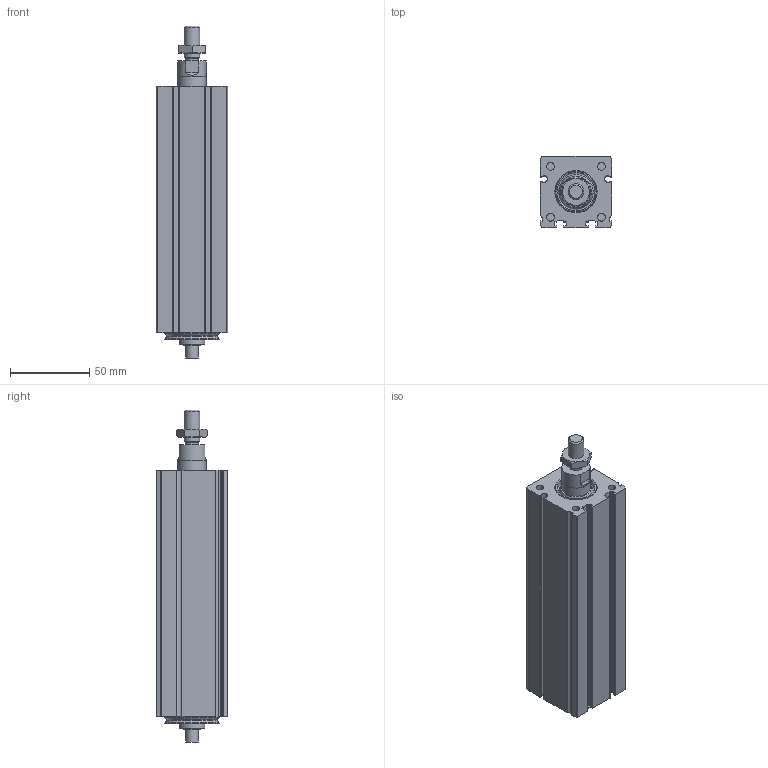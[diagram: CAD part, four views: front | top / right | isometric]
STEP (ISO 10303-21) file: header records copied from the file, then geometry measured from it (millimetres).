
FILE_DESCRIPTION(/* description */ ('STEP AP214'),/* implementation_level */ '2;1');
FILE_NAME(/* name */ 'MCE 45 1003 75 0(0)',/* time_stamp */ '2023-10-05T14:23:58+02:00',/* author */ ('License CC BY-ND 4.0'),/* organization */ ('CADENAS'),/* preprocessor_version */ 'ST-DEVELOPER v19.3',/* originating_system */ 'PARTsolutions',/* authorisation */ ' ');
FILE_SCHEMA (('AUTOMOTIVE_DESIGN {1 0 10303 214 3 1 1}'));
Length unit declared in the file: millimetre
Products named in the file (4): MCE 45 1003 75  0(0); 45_nut; 45(750)_rod; 45(75)_msc
Assembly tree (3 placements, depth 2):
  MCE 45 1003 75  0(0)
    45_nut
    45(750)_rod
    45(75)_msc
Bounding box: 45 x 45 x 209 mm (x, y, z)
Volume: 264737.9 mm3; surface area: 71048.7 mm2
Topology: 3 solids, 3 shells, 212 faces, 525 edges, 341 vertices
Faces by surface type: plane 92, cylinder 92, cone 23, torus 5
Full cylindrical faces by diameter (mm): 3.242 x4, 4.917 x4, 8 x2, 8.376 x1, 10 x1, 16 x1, 17.8 x1, 18 x2, 24 x1, 24.5 x1, 32.5 x2, 34 x2
Entity records: 6269 total; most frequent: CARTESIAN_POINT 1132, DIRECTION 1108, ORIENTED_EDGE 970, EDGE_CURVE 485, AXIS2_PLACEMENT_3D 433, VERTEX_POINT 339, EDGE_LOOP 274, FACE_BOUND 274
